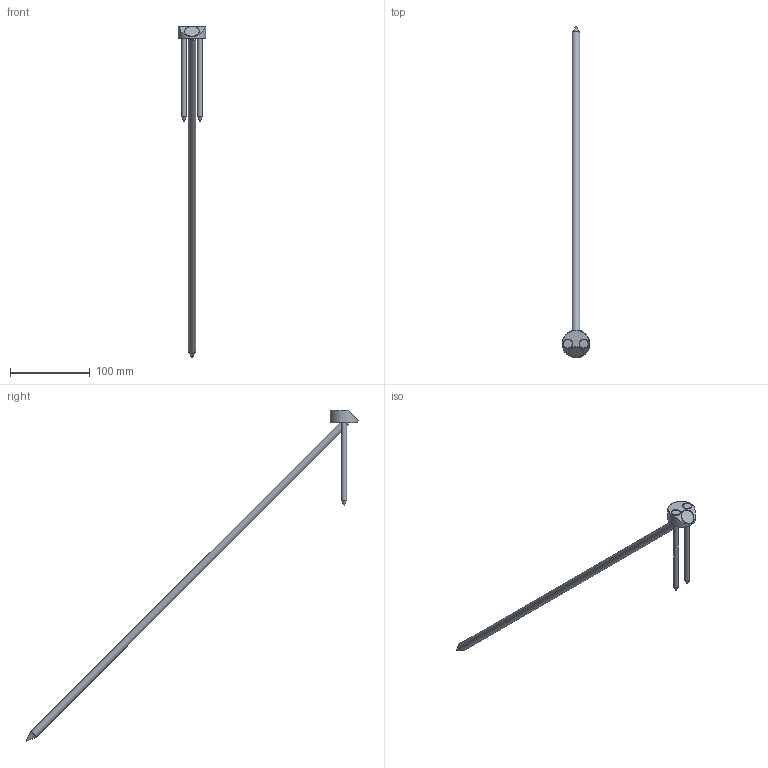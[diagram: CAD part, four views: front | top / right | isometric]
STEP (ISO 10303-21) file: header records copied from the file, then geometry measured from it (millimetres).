
FILE_DESCRIPTION(/* description */ ('Unknown'),/* implementation_level */ '2;1');
FILE_NAME(/* name */ 'T-JOINT_D35_W45_2xSK 6x120_1xSK 10x580',/* time_stamp */ '2022-02-03T13:49:41+01:00',/* author */ ('Unknown'),/* organization */ ('Unknown'),/* preprocessor_version */ 'ST-DEVELOPER v16.7',/* originating_system */ 'Solid Edge',/* authorisation */ 'Unknown');
FILE_SCHEMA (('AUTOMOTIVE_DESIGN {1 0 10303 214 3 1 1}'));
Length unit declared in the file: millimetre
Products named in the file (4): T-Joint_D35_W45_SK-10x580_2xSK-6x120; T-Joint_D35_W45; SK Schraube 6x120_ohne_Gewinde; SK Schraube 10x580_ohne_Gewinde_22042020
Assembly tree (4 placements, depth 2):
  T-Joint_D35_W45_SK-10x580_2xSK-6x120
    T-Joint_D35_W45
    SK Schraube 6x120_ohne_Gewinde  x2
    SK Schraube 10x580_ohne_Gewinde_22042020
Bounding box: 34.78 x 417.1 x 416.83 mm (x, y, z)
Volume: 62498.8 mm3; surface area: 27234.4 mm2
Topology: 4 solids, 4 shells, 35 faces, 73 edges, 45 vertices
Faces by surface type: cylinder 12, plane 11, cone 9, torus 3
Full cylindrical faces by diameter (mm): 6 x2, 6.2 x2, 6.3 x1, 10 x2, 11 x2, 12.5 x1, 18 x1, 34.8 x1
Entity records: 771 total; most frequent: DIRECTION 130, CARTESIAN_POINT 126, ORIENTED_EDGE 76, AXIS2_PLACEMENT_3D 63, EDGE_LOOP 53, FACE_BOUND 53, EDGE_CURVE 38, VERTEX_POINT 33
